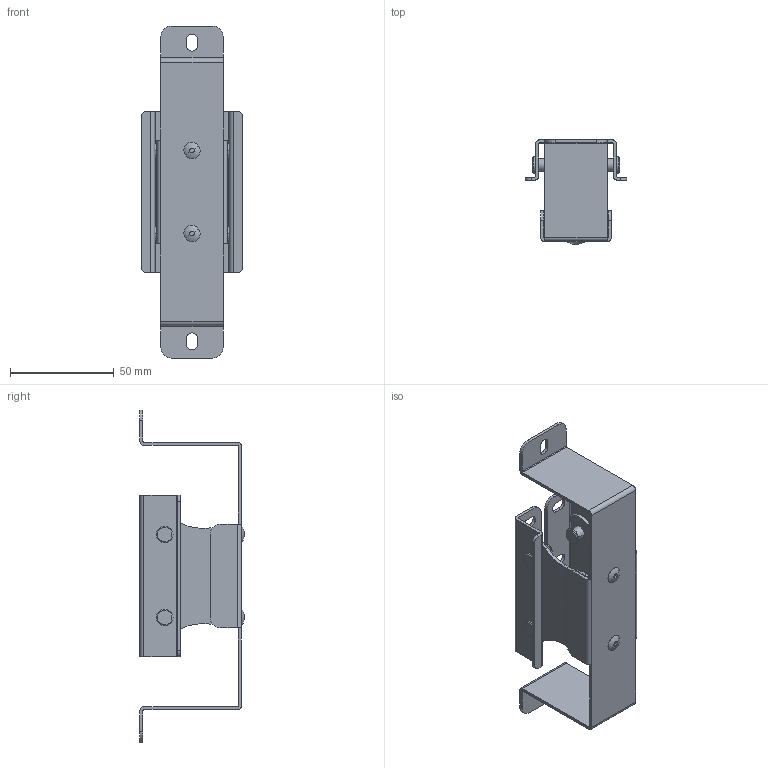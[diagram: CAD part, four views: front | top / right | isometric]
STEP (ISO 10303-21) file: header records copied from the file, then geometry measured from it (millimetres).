
FILE_DESCRIPTION (( 'STEP AP214' ), '1' );
FILE_NAME ('N424-CB-S.STEP', '2025-10-07T07:57:05', ( '' ), ( '' ), 'SwSTEP 2.0', 'SolidWorks 2024', '' );
FILE_SCHEMA (( 'AUTOMOTIVE_DESIGN' ));
Length unit declared in the file: millimetre
Products named in the file (5): CenterFrameS; CenterBracketS; Hinge; リベットφ４; N424-CB-S
Assembly tree (6 placements, depth 2):
  N424-CB-S
    CenterBracketS
    CenterFrameS
    Hinge  x2
    リベットφ４  x2
Bounding box: 49 x 50.3 x 160 mm (x, y, z)
Volume: 31858.3 mm3; surface area: 44087.6 mm2
Topology: 6 solids, 6 shells, 268 faces, 686 edges, 442 vertices
Faces by surface type: cylinder 128, plane 108, cone 24, sphere 8
Entity records: 6150 total; most frequent: DIRECTION 1110, CARTESIAN_POINT 1029, ORIENTED_EDGE 1004, EDGE_CURVE 502, AXIS2_PLACEMENT_3D 407, VERTEX_POINT 326, VECTOR 296, LINE 296
